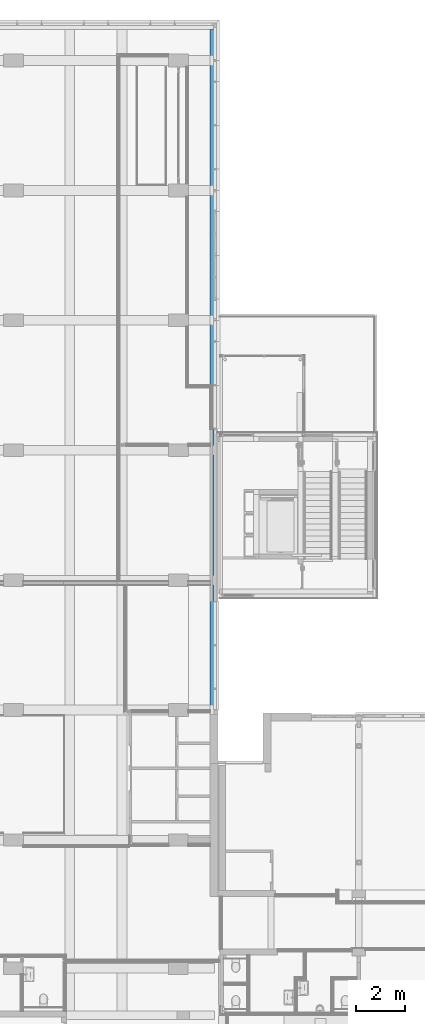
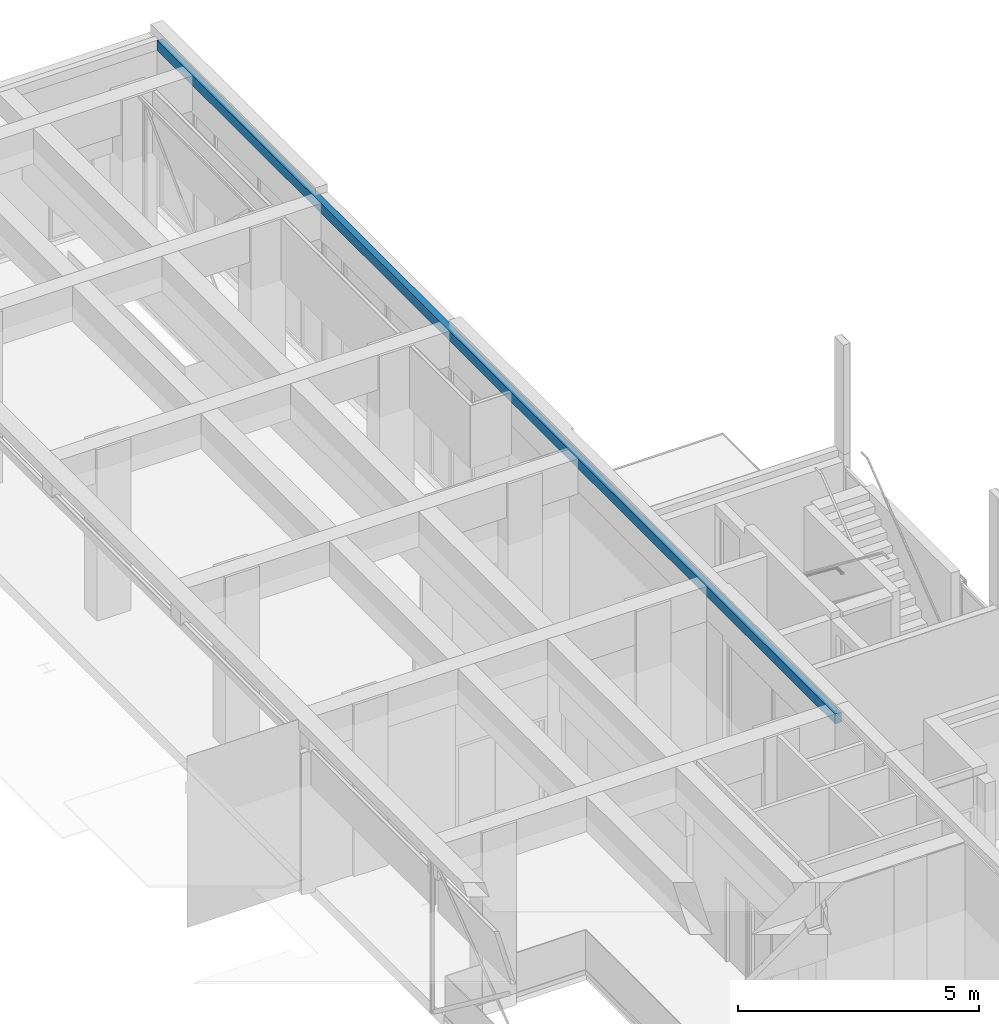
# One storey, part 27 of 117: 1 beam.
"""IFC2X3 building model written with IfcOpenShell, lengths in millimetres."""

from ifc_helpers import new_model, entity, si_unit, converted_unit, derived_unit, money_unit, direction, frame, origin_with_axes, place, context, subcontext, project, spatial, faceted_brep, material, type_object, element, save


model = new_model("IFC2X3")

# Units and contexts
model_context = context("Model", 3, precision=0.01, world=origin_with_axes(), true_north=direction((0.0, 1.0)))
body_context = subcontext(model_context, "Body", "Model", "MODEL_VIEW")
ifc_project = project(units=[si_unit("LENGTHUNIT", "METRE", prefix="MILLI"), si_unit("AREAUNIT", "SQUARE_METRE"), si_unit("VOLUMEUNIT", "CUBIC_METRE"), converted_unit("PLANEANGLEUNIT", "DEGREE", entity("IfcPlaneAngleMeasure", 0.0174532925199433), si_unit("PLANEANGLEUNIT", "RADIAN"), dimensions=[0, 0, 0, 0, 0, 0, 0]), money_unit("EUR"), converted_unit("TIMEUNIT", "Year", entity("IfcTimeMeasure", 31557600.0), si_unit("TIMEUNIT", "SECOND"), dimensions=[0, 0, 1, 0, 0, 0, 0]), si_unit("MASSUNIT", "GRAM", prefix="KILO"), si_unit("THERMODYNAMICTEMPERATUREUNIT", "DEGREE_CELSIUS"), si_unit("LUMINOUSINTENSITYUNIT", "LUMEN"), si_unit("ENERGYUNIT", "JOULE", prefix="MEGA"), derived_unit("THERMALCONDUCTANCEUNIT", [(si_unit("POWERUNIT", "WATT"), 1), (si_unit("LENGTHUNIT", "METRE"), -1), (si_unit("THERMODYNAMICTEMPERATUREUNIT", "KELVIN"), -1)]), derived_unit("SPECIFICHEATCAPACITYUNIT", [(si_unit("ENERGYUNIT", "JOULE"), 1), (si_unit("MASSUNIT", "GRAM", prefix="KILO"), -1), (si_unit("THERMODYNAMICTEMPERATUREUNIT", "KELVIN"), -1)]), derived_unit("MASSDENSITYUNIT", [(si_unit("MASSUNIT", "GRAM", prefix="KILO"), 1), (si_unit("VOLUMEUNIT", "CUBIC_METRE"), -1)])], contexts=[model_context])

# Site, building, storey
site_placement = place(None, origin_with_axes())
site = spatial("IfcSite", under=ifc_project, at=site_placement, Name="Site", CompositionType="ELEMENT")
building_placement = place(site_placement, origin_with_axes())
building = spatial("IfcBuilding", under=site, at=building_placement, Name="Naam gebouw", CompositionType="ELEMENT")
storey_placement = place(building_placement, frame((0.0, 0.0, 4150.0), z_axis=(0.0, 0.0, 1.0), x_axis=(1.0, 0.0, 0.0)))
storey = spatial("IfcBuildingStorey", under=building, at=storey_placement, Name="1e verdieping N", CompositionType="ELEMENT", Elevation=4150.0)

# Beam
ifc_material = material(Name="ALG - CONSTRUCTIEF KOLOM")
beam_type = type_object("IfcBeamType", Name="ALG - CONSTRUCTIEF KOLOM 150 x 250", PredefinedType="BEAM")
beam_placement = place(storey_placement, frame((29980.99999999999, 27755.91242510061, 4340.0), z_axis=(0.0, 0.0, 1.0), x_axis=(1.0, 0.0, 0.0)))
element("IfcBeam", 1, at=beam_placement, inside=storey, type_object=beam_type, material=ifc_material, Name="_Balk-x", ObjectType="BEAM", context=body_context, shape_type="Brep", body=[
    faceted_brep([(74.99999999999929, 0.0, 0.0), (74.99999999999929, 0.0, -250.0000000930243), (74.99999999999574, 28130.00314202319, -250.0000000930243), (74.99999999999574, 28130.00314202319, 0.0), (-74.99999999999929, 0.0, -250.0000000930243), (-74.99999999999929, 0.0, 0.0), (-74.99999999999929, 28130.00314202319, -250.0000000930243), (-74.99999999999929, 28130.00314202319, 0.0)], [[[0, 1, 2, 3]], [[4, 1, 0, 5]], [[1, 4, 6, 2]], [[2, 6, 7, 3]], [[5, 0, 3, 7]], [[4, 5, 7, 6]]]),
])

save(model, "model.ifc")
